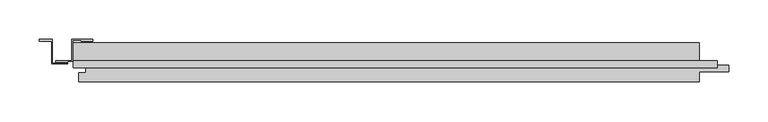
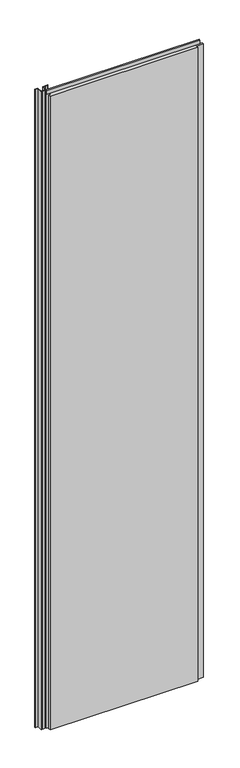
"""IFC4 building model written with IfcOpenShell, lengths in millimetres: plate geometry, Trimo_Qbiss Screen_Normal Panel-VERTICAL : HR - B."""

from ifc_helpers import new_model, si_unit, frame, origin, place, context, project, spatial, polyline, outline, extrude, source, transform, mapped, element, save


def plate_46ff2dc8(model_context):
    return source(origin(), model_context, "Body", "SweptSolid", [
        extrude(outline(polyline([(-361.0, 127.6), (-376.0, 127.6), (-376.0, 128.4), (-361.8, 128.4), (-361.8, 129.2), (-387.0, 129.2), (-387.0, 102.4), (-407.2, 102.4), (-407.2, 101.6), (-393.0, 101.6), (-393.0, 100.8), (-408.0, 100.8), (-408.0, 103.2), (-387.8, 103.2), (-387.8, 130.0), (-361.0, 130.0), (-361.0, 127.6)])), frame((0.0, 0.0, 12.5), z_axis=(0.0, 0.0, 1.0), x_axis=(1.0, 0.0, 0.0)), (0.0, 0.0, 1.0), 3600.0),
        extrude(outline(polyline([(-393.0, 100.0), (-393.0, 99.2), (-413.6, 99.2), (-413.6, 129.2), (-428.2, 129.2), (-428.2, 128.4), (-414.0, 128.4), (-414.0, 127.6), (-429.0, 127.6), (-429.0, 130.0), (-412.8, 130.0), (-412.8, 100.0), (-393.0, 100.0)])), frame((0.0, 0.0, 12.5), z_axis=(0.0, 0.0, 1.0), x_axis=(1.0, 0.0, 0.0)), (0.0, 0.0, 1.0), 3600.0),
        extrude(outline(polyline([(409.0, 97.0), (409.0, 102.6), (430.0, 102.6), (430.0, 97.0), (409.0, 97.0)])), frame((0.0, 0.0, 12.5), z_axis=(0.0, 0.0, 1.0), x_axis=(1.0, 0.0, 0.0)), (0.0, 0.0, 1.0), 3575.0),
        extrude(outline(polyline([(-386.0, 93.9), (-386.0, 102.6), (431.0, 102.6), (431.0, 93.9), (-386.0, 93.9)])), frame((0.0, 0.0, 3590.5), z_axis=(0.0, 0.0, 1.0), x_axis=(1.0, 0.0, 0.0)), (0.0, 0.0, 1.0), 19.0),
        extrude(outline(polyline([(408.0, 97.0), (445.5, 97.0), (445.5, 89.0), (408.0, 89.0), (408.0, 76.0), (-379.0, 76.0), (-379.0, 88.0), (-370.5, 88.0), (-370.5, 98.0), (-386.0, 98.0), (-386.0, 126.0), (408.0, 126.0), (408.0, 97.0)])), frame((0.0, 0.0, 12.5), z_axis=(0.0, 0.0, 1.0), x_axis=(1.0, 0.0, 0.0)), (0.0, 0.0, 1.0), 3575.0),
    ])


if __name__ == "__main__":
    model = new_model("IFC4")
    model_context = context("Model", 3, world=origin())
    ifc_project = project(units=[si_unit("LENGTHUNIT", "METRE", prefix="MILLI")], contexts=[model_context])
    site = spatial("IfcSite", under=ifc_project)
    building = spatial("IfcBuilding", under=site)
    placement = place(None, origin())
    plate_shape = plate_46ff2dc8(model_context)
    element("IfcPlate", 1, ObjectType="Trimo_Qbiss Screen_Normal Panel-VERTICAL : HR - B", at=placement, inside=building, context=model_context, shape_type="MappedRepresentation", body=[
        mapped(plate_shape, transform((0.0, 0.0, 0.0), x_axis=(1.0, 0.0, 0.0), y_axis=(0.0, 1.0, 0.0), z_axis=(0.0, 0.0, 1.0))),
    ])
    save(model, "model.ifc")
